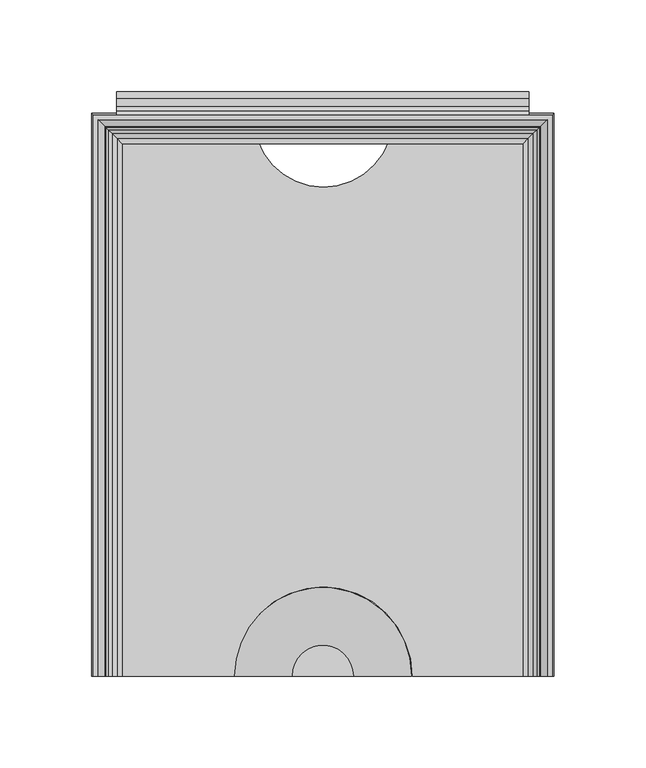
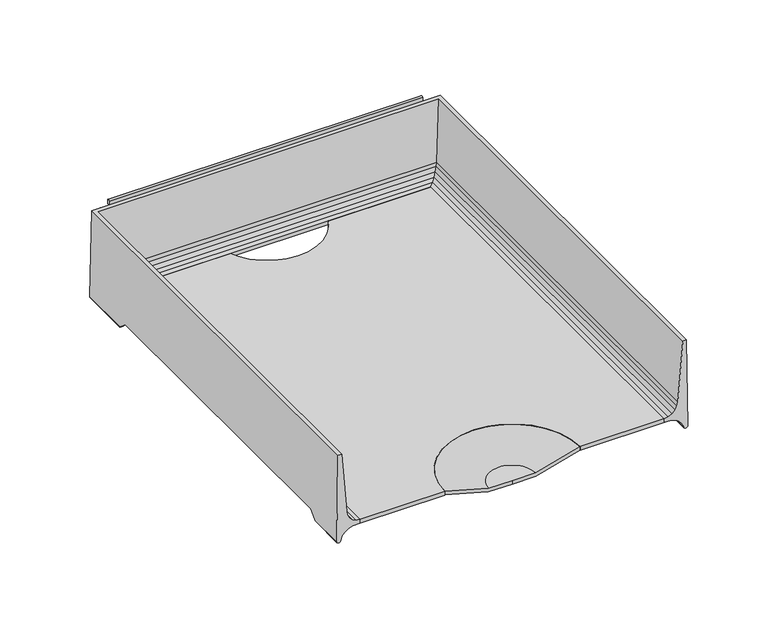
"""IFC4 building model written with IfcOpenShell, lengths in millimetres: furniture geometry."""

from ifc_helpers import new_model, si_unit, point, frame, frame_2d, origin, place, context, project, spatial, polyline, circle_curve, ellipse_curve, trimmed, segment, composite_curve, outline, extrude, source, transform, mapped, element, save
from ifc_brep_helpers import plane_surface, cylinder_surface, revolved_surface, advanced_brep


def furniture_d3ea2044(model_context):
    return source(origin(), model_context, "Body", "SolidModel", [
        advanced_brep(
        [(126.0820502, -154.0206082, 901.3882489), (125.1325529, -154.0206082, 966.7876914), (122.4547921, -154.0206082, 966.7876914), (118.8379747, -154.0206082, 922.0006003), (118.4123648, -154.0206082, 919.2671052), (117.0774354, -154.0206082, 916.5660664), (114.9656457, -154.0206082, 914.4171015), (112.28832, -154.0206082, 913.0352261), (109.3133381, -154.0206082, 912.5587052), (109.3133381, -154.0206082, 909.7365971), (114.5666739, -154.0206082, 909.5435987), (117.605351, -154.0206082, 908.4872218), (120.2416, -154.0206082, 906.6433822), (122.2762142, -154.0206082, 904.1514079), (123.1625518, -154.0206082, 901.1081655), (126.0820502, -127.6379698, 901.3882489), (126.0026181, -121.5231874, 906.859372), (126.0026181, 109.0611937, 906.859372), (126.0820502, 115.1759816, 901.3882489), (126.0820502, 153.036442, 901.3882489), (125.1325529, 152.0869447, 966.7876914), (-125.1325529, 152.0869447, 966.7876914), (-125.1325529, -154.0206082, 966.7876914), (-122.4547921, -154.0206082, 966.7876914), (-122.4547921, 149.4091839, 966.7876914), (122.4547921, 149.4091839, 966.7876914), (118.8379747, 145.7923665, 922.0006003), (118.4123648, 145.3667566, 919.2671052), (117.0774354, 144.0318272, 916.5660664), (114.9656457, 141.9200375, 914.4171015), (112.28832, 139.2427118, 913.0352261), (109.3133381, 136.2677299, 912.5587052), (109.3133381, 136.2677299, 909.7365971), (114.5666739, 141.5210656, 909.5435987), (117.605351, 144.5597428, 908.4872218), (120.2416, 147.1959918, 906.6433822), (120.2416, 109.3025941, 906.6433822), (119.9327864, 109.0611937, 906.859372), (119.9327864, -121.5231874, 906.859372), (120.2416, -121.7645876, 906.6433822), (122.2762142, -124.5497344, 904.1514079), (122.2762142, 149.230606, 904.1514079), (122.2762142, 112.0877435, 904.1514079), (123.1625518, -127.9510041, 901.1081655), (123.1625518, 150.1169436, 901.1081655), (123.1625518, 115.4890162, 901.1081655), (-126.0820502, 153.036442, 901.3882489), (-118.8379747, 145.7923665, 922.0006003), (-118.4123648, 145.3667566, 919.2671052), (-117.0774354, 144.0318272, 916.5660664), (-114.9656457, 141.9200375, 914.4171015), (-112.28832, 139.2427118, 913.0352261), (-109.3133381, 136.2677299, 912.5587052), (-109.3133381, 136.2677299, 909.7365971), (-114.5666739, 141.5210656, 909.5435987), (-117.605351, 144.5597428, 908.4872218), (-120.2416, 147.1959918, 906.6433822), (-122.2762142, 149.230606, 904.1514079), (-123.1625518, 150.1169436, 901.1081655), (-126.0820502, -154.0206082, 901.3882489), (-123.1625518, -154.0206082, 901.1081655), (-122.2762142, -154.0206082, 904.1514079), (-120.2416, -154.0206082, 906.6433822), (-117.605351, -154.0206082, 908.4872218), (-114.5666739, -154.0206082, 909.5435987), (-109.3133381, -154.0206082, 909.7365971), (-109.3133381, -154.0206082, 912.5587052), (-112.28832, -154.0206082, 913.0352261), (-114.9656457, -154.0206082, 914.4171015), (-117.0774354, -154.0206082, 916.5660664), (-118.4123648, -154.0206082, 919.2671052), (-118.8379747, -154.0206082, 922.0006003), (-126.0820502, 115.1759816, 901.3882489), (-126.0026181, 109.0611937, 906.859372), (-126.0026181, -121.5231874, 906.859372), (-126.0820502, -127.6379698, 901.3882489), (-120.2416, -121.7645876, 906.6433822), (-119.9327864, -121.5231874, 906.859372), (-119.9327864, 109.0611937, 906.859372), (-120.2416, 109.3025941, 906.6433822), (-122.2762142, 112.0877435, 904.1514079), (-122.2762142, -124.5497344, 904.1514079), (-123.1625518, 115.4890162, 901.1081655), (-123.1625518, -127.9510041, 901.1081655)],
        [
            (0, 1),
            (1, 2),
            (2, 3),
            (3, 4),
            (4, 5),
            (5, 6),
            (6, 7),
            (7, 8),
            (8, 9),
            (9, 10),
            (10, 11),
            (11, 12),
            (12, 13),
            (13, 14),
            (14, 0, circle_curve(frame((124.5859452, -154.0206082, 901.6271685), z_axis=(0.0, -1.0, 0.0), x_axis=(-1.0, 0.0, 0.0)), 1.515062)),
            (0, 15),
            (15, 16),
            (16, 17),
            (17, 18),
            (18, 19),
            (19, 20),
            (20, 1),
            (20, 21),
            (21, 22),
            (22, 23),
            (23, 24),
            (24, 25),
            (25, 2),
            (25, 26),
            (26, 3),
            (26, 27),
            (27, 4),
            (27, 28),
            (28, 5),
            (28, 29),
            (29, 6),
            (29, 30),
            (30, 7),
            (30, 31),
            (31, 8),
            (31, 32),
            (32, 9),
            (32, 33),
            (33, 10),
            (33, 34),
            (34, 11),
            (34, 35),
            (35, 36),
            (36, 37),
            (37, 38),
            (38, 39),
            (39, 12),
            (39, 40),
            (40, 13),
            (35, 41),
            (41, 42),
            (42, 36),
            (40, 43),
            (43, 14),
            (41, 44),
            (44, 45),
            (45, 42),
            (43, 15, ellipse_curve(frame((124.5859452, -127.3709422, 901.6271685), z_axis=(0.0, -0.6667949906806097, 0.7452411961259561), x_axis=(0.0, -0.7452411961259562, -0.6667949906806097)), 2.2721556, 1.515062)),
            (44, 19, ellipse_curve(frame((124.5859452, 151.540337, 901.6271685), z_axis=(0.7071067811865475, -0.7071067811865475, 0.0), x_axis=(-0.7071067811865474, -0.7071067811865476, 0.0)), 2.1426212, 1.515062)),
            (18, 45, ellipse_curve(frame((124.5859452, 114.9089538, 901.6271685), z_axis=(0.0, 0.6667946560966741, 0.7452414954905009), x_axis=(0.0, -0.7452414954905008, 0.6667946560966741)), 2.2721567, 1.515062)),
            (19, 46),
            (46, 21),
            (24, 47),
            (47, 26),
            (47, 48),
            (48, 27),
            (48, 49),
            (49, 28),
            (49, 50),
            (50, 29),
            (50, 51),
            (51, 30),
            (51, 52),
            (52, 31),
            (52, 53),
            (53, 32),
            (53, 54),
            (54, 33),
            (54, 55),
            (55, 34),
            (55, 56),
            (56, 35),
            (56, 57),
            (57, 41),
            (57, 58),
            (58, 44),
            (58, 46, ellipse_curve(frame((-124.5859452, 151.540337, 901.6271685), z_axis=(0.7071067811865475, 0.7071067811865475, 0.0), x_axis=(0.7071067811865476, -0.7071067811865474, 0.0)), 2.1426212, 1.515062)),
            (22, 59),
            (59, 60, circle_curve(frame((-124.5859452, -154.0206082, 901.6271685), z_axis=(0.0, -1.0, 0.0), x_axis=(1.0, 0.0, 0.0)), 1.515062)),
            (60, 61),
            (61, 62),
            (62, 63),
            (63, 64),
            (64, 65),
            (65, 66),
            (66, 67),
            (67, 68),
            (68, 69),
            (69, 70),
            (70, 71),
            (71, 23),
            (46, 72),
            (72, 73),
            (73, 74),
            (74, 75),
            (75, 59),
            (71, 47),
            (70, 48),
            (69, 49),
            (68, 50),
            (67, 51),
            (66, 52),
            (65, 53),
            (64, 54),
            (63, 55),
            (62, 76),
            (76, 77),
            (77, 78),
            (78, 79),
            (79, 56),
            (79, 80),
            (80, 57),
            (61, 81),
            (81, 76),
            (80, 82),
            (82, 58),
            (60, 83),
            (83, 81),
            (82, 72, ellipse_curve(frame((-124.5859452, 114.9089538, 901.6271685), z_axis=(0.0, 0.6667946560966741, 0.7452414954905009), x_axis=(0.0, 0.7452414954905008, -0.6667946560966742)), 2.2721567, 1.515062)),
            (75, 83, ellipse_curve(frame((-124.5859452, -127.3709422, 901.6271685), z_axis=(0.0, -0.6667949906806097, 0.7452411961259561), x_axis=(0.0, 0.745241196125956, 0.6667949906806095)), 2.2721556, 1.515062)),
            (38, 16),
            (74, 77),
            (37, 17),
            (73, 78),
        ],
        [
            plane_surface(frame((127.0, -154.0206082, 900.1125), z_axis=(0.0, -1.0, 0.0), x_axis=(0.0, 0.0, 1.0))),
            plane_surface(frame((126.0820502, -154.0206082, 901.3882489), z_axis=(0.9998946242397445, 0.0, 0.01451690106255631), x_axis=(0.0, 1.0, 0.0))),
            plane_surface(frame((125.1325529, -154.0206082, 966.7876914), z_axis=(0.0, 0.0, 1.0), x_axis=(0.0, 1.0, 0.0))),
            plane_surface(frame((122.4547921, -154.0206082, 966.7876914), z_axis=(-0.9967551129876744, 0.0, 0.08049375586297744), x_axis=(0.0, 1.0, 0.0))),
            plane_surface(frame((118.8379747, -154.0206082, 922.0006003), z_axis=(-0.9880945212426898, 0.0, 0.15384803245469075), x_axis=(0.0, 1.0, 0.0))),
            plane_surface(frame((118.4123648, -154.0206082, 919.2671052), z_axis=(-0.8964873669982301, 0.0, 0.44306929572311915), x_axis=(0.0, 1.0, 0.0))),
            plane_surface(frame((117.0774354, -154.0206082, 916.5660664), z_axis=(-0.7132491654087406, 0.0, 0.7009105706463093), x_axis=(0.0, 1.0, 0.0))),
            plane_surface(frame((114.9656457, -154.0206082, 914.4171015), z_axis=(-0.45865074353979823, 0.0, 0.8886166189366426), x_axis=(0.0, 1.0, 0.0))),
            plane_surface(frame((112.28832, -154.0206082, 913.0352261), z_axis=(-0.15816001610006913, 0.0, 0.987413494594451), x_axis=(0.0, 1.0, 0.0))),
            plane_surface(frame((109.3133381, -154.0206082, 912.5587052), z_axis=(-1.0, 0.0, 0.0), x_axis=(0.0, 1.0, 0.0))),
            plane_surface(frame((109.3133381, -154.0206082, 909.7365971), z_axis=(-0.036713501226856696, 0.0, -0.9993258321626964), x_axis=(0.0, 1.0, 0.0))),
            plane_surface(frame((114.5666739, -154.0206082, 909.5435987), z_axis=(-0.3283669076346, 0.0, -0.9445502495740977), x_axis=(0.0, 1.0, 0.0))),
            plane_surface(frame((117.605351, -154.0206082, 908.4872218), z_axis=(-0.5731421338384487, 0.0, -0.819455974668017), x_axis=(0.0, 1.0, 0.0))),
            plane_surface(frame((120.2416, -154.0206082, 906.6433822), z_axis=(-0.77460799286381, 0.0, -0.6324416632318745), x_axis=(0.0, 1.0, 0.0))),
            plane_surface(frame((122.2762142, -154.0206082, 904.1514079), z_axis=(-0.9601080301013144, 0.0, -0.2796293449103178), x_axis=(0.0, 1.0, 0.0))),
            cylinder_surface(frame((124.5859452, -154.0206082, 901.6271685), z_axis=(0.0, -1.0, 0.0), x_axis=(-1.0, 0.0, 0.0)), 1.515062),
            plane_surface(frame((126.0820502, 153.036442, 901.3882489), z_axis=(0.0, 0.9998946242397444, 0.01451690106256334), x_axis=(-1.0, 0.0, 0.0))),
            plane_surface(frame((122.4547921, 149.4091839, 966.7876914), z_axis=(0.0, -0.9967551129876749, 0.08049375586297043), x_axis=(-1.0, 0.0, 0.0))),
            plane_surface(frame((118.8379747, 145.7923665, 922.0006003), z_axis=(0.0, -0.9880945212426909, 0.15384803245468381), x_axis=(-1.0, 0.0, 0.0))),
            plane_surface(frame((118.4123648, 145.3667566, 919.2671052), z_axis=(0.0, -0.8964873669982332, 0.4430692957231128), x_axis=(-1.0, 0.0, 0.0))),
            plane_surface(frame((117.0774354, 144.0318272, 916.5660664), z_axis=(0.0, -0.7132491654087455, 0.7009105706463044), x_axis=(-1.0, 0.0, 0.0))),
            plane_surface(frame((114.9656457, 141.9200375, 914.4171015), z_axis=(0.0, -0.4586507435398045, 0.8886166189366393), x_axis=(-1.0, 0.0, 0.0))),
            plane_surface(frame((112.28832, 139.2427118, 913.0352261), z_axis=(0.0, -0.15816001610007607, 0.9874134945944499), x_axis=(-1.0, 0.0, 0.0))),
            plane_surface(frame((109.3133381, 136.2677299, 912.5587052), z_axis=(0.0, -1.0, 0.0), x_axis=(-1.0, 0.0, 0.0))),
            plane_surface(frame((109.3133381, 136.2677299, 909.7365971), z_axis=(0.0, -0.03671350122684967, -0.9993258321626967), x_axis=(-1.0, 0.0, 0.0))),
            plane_surface(frame((114.5666739, 141.5210656, 909.5435987), z_axis=(0.0, -0.32836690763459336, -0.9445502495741), x_axis=(-1.0, 0.0, 0.0))),
            plane_surface(frame((117.605351, 144.5597428, 908.4872218), z_axis=(0.0, -0.5731421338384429, -0.819455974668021), x_axis=(-1.0, 0.0, 0.0))),
            plane_surface(frame((120.2416, 147.1959918, 906.6433822), z_axis=(0.0, -0.7746079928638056, -0.6324416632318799), x_axis=(-1.0, 0.0, 0.0))),
            plane_surface(frame((122.2762142, 149.230606, 904.1514079), z_axis=(0.0, -0.9601080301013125, -0.27962934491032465), x_axis=(-1.0, 0.0, 0.0))),
            cylinder_surface(frame((127.0, 151.540337, 901.6271685), z_axis=(1.0, 0.0, 0.0), x_axis=(0.0, -1.0, 0.0)), 1.515062),
            plane_surface(frame((-127.0, -154.0206082, 900.1125), z_axis=(0.0, -1.0, 0.0), x_axis=(0.0, 0.0, 1.0))),
            plane_surface(frame((-126.0820502, 153.036442, 901.3882489), z_axis=(-0.9998946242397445, 0.0, 0.01451690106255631), x_axis=(0.0, -1.0, 0.0))),
            plane_surface(frame((-122.4547921, 149.4091839, 966.7876914), z_axis=(0.9967551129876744, 0.0, 0.08049375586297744), x_axis=(0.0, -1.0, 0.0))),
            plane_surface(frame((-118.8379747, 145.7923665, 922.0006003), z_axis=(0.9880945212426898, 0.0, 0.15384803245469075), x_axis=(0.0, -1.0, 0.0))),
            plane_surface(frame((-118.4123648, 145.3667566, 919.2671052), z_axis=(0.8964873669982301, 0.0, 0.44306929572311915), x_axis=(0.0, -1.0, 0.0))),
            plane_surface(frame((-117.0774354, 144.0318272, 916.5660664), z_axis=(0.7132491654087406, 0.0, 0.7009105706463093), x_axis=(0.0, -1.0, 0.0))),
            plane_surface(frame((-114.9656457, 141.9200375, 914.4171015), z_axis=(0.45865074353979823, 0.0, 0.8886166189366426), x_axis=(0.0, -1.0, 0.0))),
            plane_surface(frame((-112.28832, 139.2427118, 913.0352261), z_axis=(0.15816001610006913, 0.0, 0.987413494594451), x_axis=(0.0, -1.0, 0.0))),
            plane_surface(frame((-109.3133381, 136.2677299, 912.5587052), z_axis=(1.0, 0.0, 0.0), x_axis=(0.0, -1.0, 0.0))),
            plane_surface(frame((-109.3133381, 136.2677299, 909.7365971), z_axis=(0.036713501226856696, 0.0, -0.9993258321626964), x_axis=(0.0, -1.0, 0.0))),
            plane_surface(frame((-114.5666739, 141.5210656, 909.5435987), z_axis=(0.3283669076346, 0.0, -0.9445502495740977), x_axis=(0.0, -1.0, 0.0))),
            plane_surface(frame((-117.605351, 144.5597428, 908.4872218), z_axis=(0.5731421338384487, 0.0, -0.819455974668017), x_axis=(0.0, -1.0, 0.0))),
            plane_surface(frame((-120.2416, 147.1959918, 906.6433822), z_axis=(0.77460799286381, 0.0, -0.6324416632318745), x_axis=(0.0, -1.0, 0.0))),
            plane_surface(frame((-122.2762142, 149.230606, 904.1514079), z_axis=(0.9601080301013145, 0.0, -0.2796293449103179), x_axis=(0.0, -1.0, 0.0))),
            cylinder_surface(frame((-124.5859452, 153.9543918, 901.6271685), z_axis=(0.0, 1.0, 0.0), x_axis=(1.0, 0.0, 0.0)), 1.515062),
            plane_surface(frame((-127.0, -130.1695728, 899.1231296), z_axis=(0.0, 0.6667949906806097, -0.7452411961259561), x_axis=(1.0, 0.0, 0.0))),
            plane_surface(frame((-127.0, -121.5231874, 906.859372), z_axis=(0.0, 0.0, -1.0), x_axis=(1.0, 0.0, 0.0))),
            plane_surface(frame((-127.0, 109.0611937, 906.859372), z_axis=(0.0, -0.6667946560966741, -0.7452414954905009), x_axis=(1.0, 0.0, 0.0))),
        ],
        [
            (0, [[1, 2, 3, 4, 5, 6, 7, 8, 9, 10, 11, 12, 13, 14, 15]]),
            (1, [[-1, 16, 17, 18, 19, 20, 21, 22]]),
            (2, [[-2, -22, 23, 24, 25, 26, 27, 28]]),
            (3, [[-3, -28, 29, 30]]),
            (4, [[-4, -30, 31, 32]]),
            (5, [[-5, -32, 33, 34]]),
            (6, [[-6, -34, 35, 36]]),
            (7, [[-7, -36, 37, 38]]),
            (8, [[-8, -38, 39, 40]]),
            (9, [[-9, -40, 41, 42]]),
            (10, [[-10, -42, 43, 44]]),
            (11, [[-11, -44, 45, 46]]),
            (12, [[-12, -46, 47, 48, 49, 50, 51, 52]]),
            (13, [[-13, -52, 53, 54]]),
            (13, [[55, 56, 57, -48]]),
            (14, [[-14, -54, 58, 59]]),
            (14, [[60, 61, 62, -56]]),
            (15, [[-15, -59, 63, -16]]),
            (15, [[64, -20, 65, -61]]),
            (16, [[-21, 66, 67, -23]]),
            (17, [[-27, 68, 69, -29]]),
            (18, [[-31, -69, 70, 71]]),
            (19, [[-33, -71, 72, 73]]),
            (20, [[-35, -73, 74, 75]]),
            (21, [[-37, -75, 76, 77]]),
            (22, [[-39, -77, 78, 79]]),
            (23, [[-41, -79, 80, 81]]),
            (24, [[-43, -81, 82, 83]]),
            (25, [[-45, -83, 84, 85]]),
            (26, [[-47, -85, 86, 87]]),
            (27, [[-55, -87, 88, 89]]),
            (28, [[-60, -89, 90, 91]]),
            (29, [[-64, -91, 92, -66]]),
            (30, [[-25, 93, 94, 95, 96, 97, 98, 99, 100, 101, 102, 103, 104, 105, 106]]),
            (31, [[-24, -67, 107, 108, 109, 110, 111, -93]]),
            (32, [[-26, -106, 112, -68]]),
            (33, [[-70, -112, -105, 113]]),
            (34, [[-72, -113, -104, 114]]),
            (35, [[-74, -114, -103, 115]]),
            (36, [[-76, -115, -102, 116]]),
            (37, [[-78, -116, -101, 117]]),
            (38, [[-80, -117, -100, 118]]),
            (39, [[-82, -118, -99, 119]]),
            (40, [[-84, -119, -98, 120]]),
            (41, [[-86, -120, -97, 121, 122, 123, 124, 125]]),
            (42, [[-88, -125, 126, 127]]),
            (42, [[-96, 128, 129, -121]]),
            (43, [[-90, -127, 130, 131]]),
            (43, [[-95, 132, 133, -128]]),
            (44, [[-92, -131, 134, -107]]),
            (44, [[-94, -111, 135, -132]]),
            (45, [[136, -17, -63, -58, -53, -51]]),
            (45, [[137, -122, -129, -133, -135, -110]]),
            (46, [[-136, -50, 138, -18]]),
            (46, [[-137, -109, 139, -123]]),
            (47, [[-138, -49, -57, -62, -65, -19]]),
            (47, [[-139, -108, -134, -130, -126, -124]]),
        ],
    ),
        extrude(outline(composite_curve([segment(polyline([(-109.3647805, 138.2769393), (-35.6610422, 138.2769393)]), True, "CONTINUOUS"), segment(trimmed(circle_curve(frame_2d((0.3369133, 150.6584166)), 38.0677525), [point((-35.6610422, 138.2769393))], [point((36.3348688, 138.2769393))], True, "CARTESIAN"), True, "CONTINUOUS"), segment(polyline([(36.3348688, 138.2769393), (109.6504969, 138.2769393), (109.6504969, -153.9875), (48.9112184, -153.9875)]), True, "CONTINUOUS"), segment(trimmed(circle_curve(frame_2d((0.2842795, -153.9323196)), 48.6269702), [point((48.9112184, -153.9875))], [point((-48.3426595, -153.9875))], True, "CARTESIAN"), True, "CONTINUOUS"), segment(polyline([(-48.3426595, -153.9875), (-109.3647805, -153.9875), (-109.3647805, 138.2769393)]), True, "CONTINUOUS")], self_intersect=False)), frame((0.0, 0.0, 909.7189677), z_axis=(0.0, 0.0, 1.0), x_axis=(1.0, 0.0, 0.0)), (0.0, 0.0, 1.0), 2.8395461),
        extrude(outline(composite_curve([segment(trimmed(circle_curve(frame_2d((162.7186949, 950.9582343)), 1.9049988), [point((164.6236937, 950.9582343))], [point((160.8136962, 950.9582343))], False, "CARTESIAN"), True, "CONTINUOUS"), segment(polyline([(160.8136962, 950.9582343), (160.8136962, 954.3872311), (160.0516969, 955.1492303), (156.4380325, 955.1492303), (152.1427596, 952.8018331), (152.1427596, 961.3066285), (156.4380325, 958.9592312), (160.8136928, 958.9592312)]), True, "CONTINUOUS"), segment(trimmed(circle_curve(frame_2d((160.8136928, 955.1492303)), 3.8100009), [point((160.8136928, 958.9592312))], [point((164.6236937, 955.1492303))], False, "CARTESIAN"), True, "CONTINUOUS"), segment(polyline([(164.6236937, 955.1492303), (164.6236937, 950.9582343)]), True, "CONTINUOUS")], self_intersect=False)), frame((-112.5397809, 0.0, 0.0), z_axis=(1.0, 0.0, 0.0), x_axis=(0.0, 1.0, 0.0)), (0.0, 0.0, 1.0), 225.0795617),
        advanced_brep(
        [(-16.8929028, -153.9875, 903.684375), (-48.4614622, -153.9875, 912.5920432), (-48.4614622, -153.9875, 910.0005018), (-16.9249292, -153.9875, 901.1018704), (0.0, -153.9875, 901.1018704), (0.0, -153.9875, 903.684375), (16.8929028, -153.9875, 903.684375), (16.9249292, -153.9875, 901.1018704), (48.4614622, -153.9875, 910.0005018), (48.4614622, -153.9875, 912.5920432)],
        [
            (0, 1),
            (1, 2),
            (2, 3),
            (3, 4),
            (4, 5),
            (5, 0),
            (6, 5),
            (4, 7),
            (7, 8),
            (8, 9),
            (9, 6),
            (9, 1, circle_curve(frame((0.0, -153.9875, 912.5920432), z_axis=(0.0, 0.0, 1.0), x_axis=(-1.0, 0.0, 0.0)), 48.4614622)),
            (0, 6, circle_curve(frame((0.0, -153.9875, 903.684375), z_axis=(0.0, 0.0, -1.0), x_axis=(-1.0, 0.0, 0.0)), 16.8929028)),
            (8, 2, circle_curve(frame((0.0, -153.9875, 910.0005018), z_axis=(0.0, 0.0, 1.0), x_axis=(-1.0, 0.0, 0.0)), 48.4614622)),
            (7, 3, circle_curve(frame((0.0, -153.9875, 901.1018704), z_axis=(0.0, 0.0, 1.0), x_axis=(-1.0, 0.0, 0.0)), 16.9249292)),
        ],
        [
            plane_surface(frame((0.0, -153.9875, 900.1125), z_axis=(0.0, -1.0, 0.0), x_axis=(-1.0, 0.0, 0.0))),
            plane_surface(frame((0.0, -153.9875, 900.1125), z_axis=(0.0, -1.0, 0.0), x_axis=(1.0, 0.0, 0.0))),
            revolved_surface(polyline([(-48.4614622, -153.9875, 912.5920432), (-16.8929028, -153.9875, 903.684375)]), (0.0, -153.9875, 900.1125), (0.0, 0.0, 1.0)),
            cylinder_surface(frame((0.0, -153.9875, 900.1125), z_axis=(0.0, 0.0, 1.0), x_axis=(-1.0, 0.0, 0.0)), 48.4614622),
            revolved_surface(polyline([(-16.9249292, -153.9875, 901.1018704), (-48.4614622, -153.9875, 910.0005018)]), (0.0, -153.9875, 900.1125), (0.0, 0.0, 1.0)),
            plane_surface(frame((0.0, -153.9875, 901.1018704), z_axis=(0.0, 0.0, -1.0), x_axis=(-1.0, 0.0, 0.0))),
            plane_surface(frame((0.0, -153.9875, 903.684375), z_axis=(0.0, 0.0, 1.0), x_axis=(-1.0, 0.0, 0.0))),
        ],
        [
            (0, [[1, 2, 3, 4, 5, 6]]),
            (1, [[7, -5, 8, 9, 10, 11]]),
            (2, [[12, -1, 13, -11]]),
            (3, [[14, -2, -12, -10]]),
            (4, [[15, -3, -14, -9]]),
            (5, [[-4, -15, -8]]),
            (6, [[-13, -6, -7]]),
        ],
    ),
        extrude(outline(composite_curve([segment(polyline([(153.9875, 966.7875), (152.1427596, 966.7875), (152.1427596, 969.6190333)]), True, "CONTINUOUS"), segment(trimmed(circle_curve(frame_2d((153.0651298, 969.3137665)), 0.9715733), [point((152.1427596, 969.6190333))], [point((153.9875, 969.6190333))], False, "CARTESIAN"), True, "CONTINUOUS"), segment(polyline([(153.9875, 969.6190333), (153.9875, 966.7875)]), True, "CONTINUOUS")], self_intersect=False)), frame((-112.5397809, 0.0, 0.0), z_axis=(1.0, 0.0, 0.0), x_axis=(0.0, 1.0, 0.0)), (0.0, 0.0, 1.0), 225.0795617),
    ])


if __name__ == "__main__":
    model = new_model("IFC4")
    model_context = context("Model", 3, world=origin())
    ifc_project = project(units=[si_unit("LENGTHUNIT", "METRE", prefix="MILLI")], contexts=[model_context])
    site = spatial("IfcSite", under=ifc_project)
    building = spatial("IfcBuilding", under=site)
    placement = place(None, origin())
    furniture_shape = furniture_d3ea2044(model_context)
    element("IfcFurniture", 1, ObjectType="HermanMiller_ThrivePortfolio_Y7216_PaperTray : 3\"H x 12\"D x 10\"W", at=placement, inside=building, context=model_context, shape_type="MappedRepresentation", body=[
        mapped(furniture_shape, transform((0.0, 0.0, 0.0), x_axis=(1.0, 0.0, 0.0), y_axis=(0.0, 1.0, 0.0), z_axis=(0.0, 0.0, 1.0))),
    ])
    save(model, "model.ifc")
